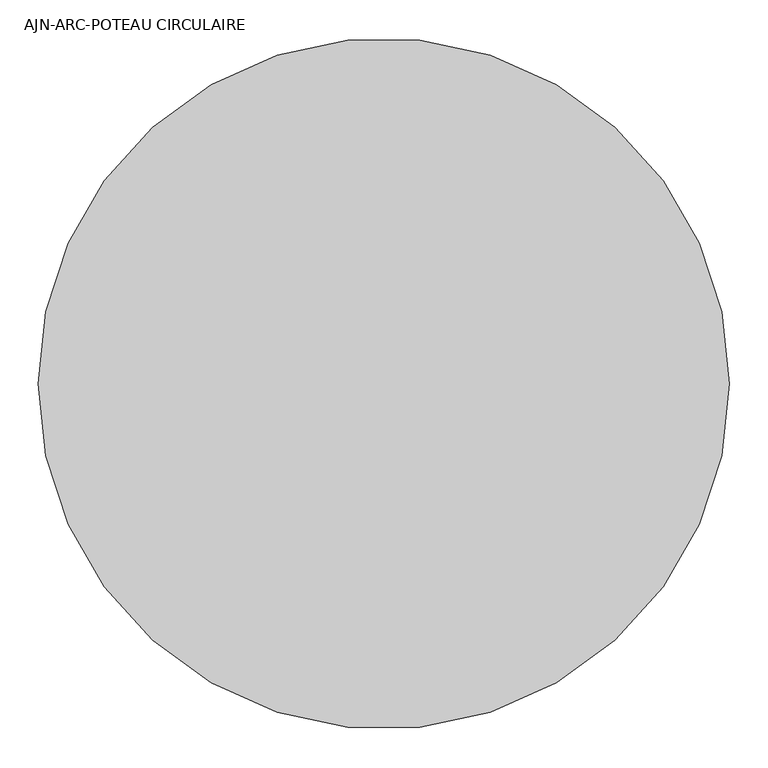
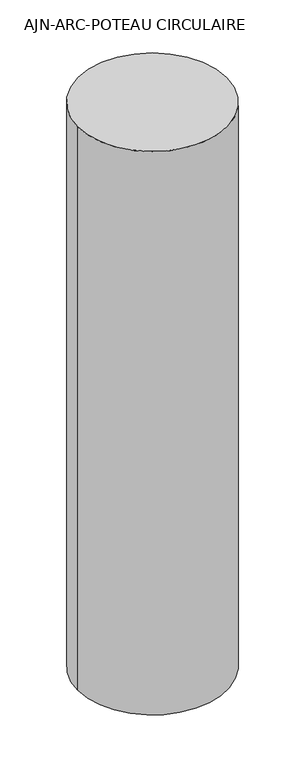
"""IFC4 building model written with IfcOpenShell, lengths in millimetres: column geometry, AJN-ARC-POTEAU CIRCULAIRE : ø90."""

from ifc_helpers import new_model, si_unit, point, frame, origin, origin_2d, place, context, project, spatial, circle_curve, trimmed, segment, composite_curve, outline, extrude, source, transform, mapped, element, save


def ajn_arc_poteau_circulaire_a7b4f06c(model_context):
    return source(origin(), model_context, "Body", "SweptSolid", [
        extrude(outline(composite_curve([segment(trimmed(circle_curve(origin_2d(), 450.0), [point((-450.0, 0.0))], [point((450.0, 0.0))], False, "CARTESIAN"), True, "CONTINUOUS"), segment(trimmed(circle_curve(origin_2d(), 450.0), [point((450.0, 0.0))], [point((-450.0, 0.0))], False, "CARTESIAN"), True, "CONTINUOUS")], self_intersect=False)), frame((0.0, 0.0, 17199.9999686), z_axis=(0.0, 0.0, 1.0), x_axis=(1.0, 0.0, 0.0)), (0.0, 0.0, 1.0), 3600.0),
    ])


if __name__ == "__main__":
    model = new_model("IFC4")
    model_context = context("Model", 3, world=origin())
    ifc_project = project(units=[si_unit("LENGTHUNIT", "METRE", prefix="MILLI")], contexts=[model_context])
    site = spatial("IfcSite", under=ifc_project)
    building = spatial("IfcBuilding", under=site)
    placement = place(None, origin())
    ajn_arc_poteau_circulaire_shape = ajn_arc_poteau_circulaire_a7b4f06c(model_context)
    element("IfcColumn", 1, ObjectType="AJN-ARC-POTEAU CIRCULAIRE : ø90", at=placement, inside=building, context=model_context, shape_type="MappedRepresentation", body=[
        mapped(ajn_arc_poteau_circulaire_shape, transform((0.0, 0.0, 0.0), x_axis=(1.0, 0.0, 0.0), y_axis=(0.0, 1.0, 0.0), z_axis=(0.0, 0.0, 1.0))),
    ])
    save(model, "model.ifc")
